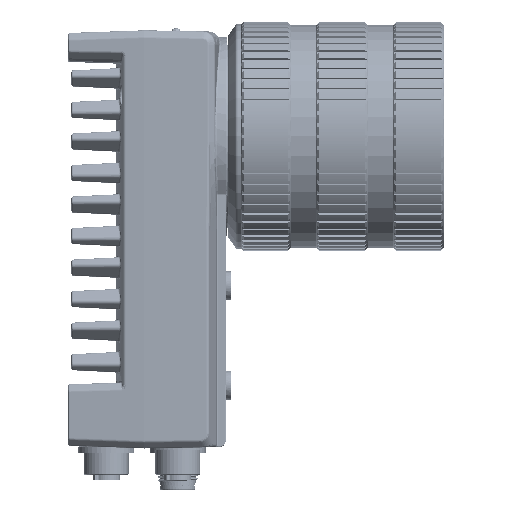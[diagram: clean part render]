
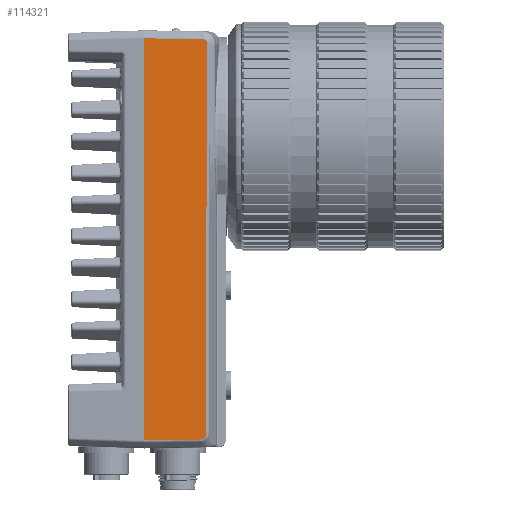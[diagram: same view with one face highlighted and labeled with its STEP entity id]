
A CAD part, left-side view. The second image highlights one B-rep face of the part: STEP entity #114321.
In plain terms, the highlighted planar face has unit normal (-1, -0.026, 0).
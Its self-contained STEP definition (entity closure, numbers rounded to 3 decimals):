
#11467=CARTESIAN_POINT('',(-33.,21.,-91.586));
#11473=DIRECTION('',(0.026,-1.,-0.017));
#11474=VECTOR('',#11473,17.312);
#11475=CARTESIAN_POINT('',(-33.,21.,29.586));
#11476=LINE('',#11475,#11474);
#11477=CARTESIAN_POINT('',(-32.547,3.697,
29.284));
#11478=CARTESIAN_POINT('',(-32.541,3.467,
29.282));
#11479=CARTESIAN_POINT('',(-32.532,3.128,
29.241));
#11480=CARTESIAN_POINT('',(-32.522,2.732,
29.078));
#11481=CARTESIAN_POINT('',(-32.515,2.486,
28.898));
#11482=CARTESIAN_POINT('',(-32.51,2.3,
28.659));
#11483=CARTESIAN_POINT('',(-32.506,2.132,
28.268));
#11484=CARTESIAN_POINT('',(-32.505,2.09,
27.928));
#11485=CARTESIAN_POINT('',(-32.505,2.09,
27.698));
#11487=CARTESIAN_POINT('',(-32.505,2.09,
-1.8));
#11488=CARTESIAN_POINT('',(-32.505,2.091,
-2.66));
#11489=CARTESIAN_POINT('',(-32.505,2.101,
-4.409));
#11490=CARTESIAN_POINT('',(-32.506,2.151,
-7.188));
#11491=CARTESIAN_POINT('',(-32.508,2.208,
-9.925));
#11492=CARTESIAN_POINT('',(-32.509,2.256,
-12.197));
#11493=CARTESIAN_POINT('',(-32.511,2.31,
-15.451));
#11494=CARTESIAN_POINT('',(-32.511,2.345,
-18.131));
#11495=CARTESIAN_POINT('',(-32.512,2.365,
-20.245));
#11496=CARTESIAN_POINT('',(-32.512,2.382,
-22.514));
#11497=CARTESIAN_POINT('',(-32.513,2.396,
-25.208));
#11498=CARTESIAN_POINT('',(-32.513,2.399,
-27.409));
#11499=CARTESIAN_POINT('',(-32.513,2.4,
-28.6));
#11501=DIRECTION('',(-0.026,1.,-0.017));
#11502=VECTOR('',#11501,17.035);
#11503=CARTESIAN_POINT('',(-32.554,3.973,
-91.288));
#11504=LINE('',#11503,#11502);
#11505=DIRECTION('',(0.,0.,1.));
#11506=VECTOR('',#11505,121.171);
#11507=CARTESIAN_POINT('',(-33.,21.,-91.586));
#11508=LINE('',#11507,#11506);
#11602=DIRECTION('',(0.,0.,1.));
#11603=VECTOR('',#11602,29.498);
#11604=CARTESIAN_POINT('',(-32.505,2.09,
-1.8));
#11605=LINE('',#11604,#11603);
#11658=DIRECTION('',(0.,0.,1.));
#11659=VECTOR('',#11658,60.582);
#11660=CARTESIAN_POINT('',(-32.513,2.4,
-89.182));
#11661=LINE('',#11660,#11659);
#16518=CARTESIAN_POINT('',(-32.554,3.973,
-91.288));
#16519=CARTESIAN_POINT('',(-32.551,3.852,
-91.286));
#16520=CARTESIAN_POINT('',(-32.545,3.618,
-91.252));
#16521=CARTESIAN_POINT('',(-32.536,3.292,
-91.118));
#16522=CARTESIAN_POINT('',(-32.529,3.003,
-90.898));
#16523=CARTESIAN_POINT('',(-32.522,2.759,
-90.604));
#16524=CARTESIAN_POINT('',(-32.517,2.562,
-90.211));
#16525=CARTESIAN_POINT('',(-32.514,2.433,
-89.753));
#16526=CARTESIAN_POINT('',(-32.513,2.402,
-89.382));
#16527=CARTESIAN_POINT('',(-32.513,2.4,
-89.182));
#90126=VERTEX_POINT('',#11467);
#90127=CARTESIAN_POINT('',(-33.,21.,29.586));
#90128=CARTESIAN_POINT('',(-32.547,3.697,
29.284));
#90129=VERTEX_POINT('',#90127);
#90130=VERTEX_POINT('',#90128);
#90131=VERTEX_POINT('',#11485);
#90132=CARTESIAN_POINT('',(-32.505,2.09,
-1.8));
#90133=VERTEX_POINT('',#90132);
#90134=VERTEX_POINT('',#16518);
#90135=VERTEX_POINT('',#16527);
#91020=CARTESIAN_POINT('',(-32.513,2.4,
-28.6));
#91021=VERTEX_POINT('',#91020);
#114300=CARTESIAN_POINT('',(-32.752,11.545,
-31.));
#114301=DIRECTION('',(1.,0.026,0.));
#114302=DIRECTION('',(0.026,-1.,0.));
#114303=AXIS2_PLACEMENT_3D('',#114300,#114301,#114302);
#114304=PLANE('',#114303);
#114306=ORIENTED_EDGE('',*,*,#114305,.T.);
#114308=ORIENTED_EDGE('',*,*,#114307,.T.);
#114310=ORIENTED_EDGE('',*,*,#114309,.F.);
#114312=ORIENTED_EDGE('',*,*,#114311,.T.);
#114314=ORIENTED_EDGE('',*,*,#114313,.F.);
#114316=ORIENTED_EDGE('',*,*,#114315,.F.);
#114317=ORIENTED_EDGE('',*,*,#114285,.T.);
#114318=ORIENTED_EDGE('',*,*,#114114,.T.);
#114319=EDGE_LOOP('',(#114306,#114308,#114310,#114312,#114314,#114316,#114317,
#114318));
#114320=FACE_OUTER_BOUND('',#114319,.F.);
#114321=ADVANCED_FACE('',(#114320),#114304,.F.);
#11486=B_SPLINE_CURVE_WITH_KNOTS('',3,(#11477,#11478,#11479,#11480,#11481,
#11482,#11483,#11484,#11485),.UNSPECIFIED.,.F.,.F.,(4,1,1,1,1,1,4),(0.,0.25,
0.375,0.5,0.625,0.75,1.),.UNSPECIFIED.);
#11500=B_SPLINE_CURVE_WITH_KNOTS('',3,(#11487,#11488,#11489,#11490,#11491,
#11492,#11493,#11494,#11495,#11496,#11497,#11498,#11499),.UNSPECIFIED.,.F.,.F.,(
4,1,1,1,1,1,1,1,1,1,4),(0.,0.1,0.2,0.3,0.4,0.5,0.6,0.7,0.8,
0.9,1.),.UNSPECIFIED.);
#16528=B_SPLINE_CURVE_WITH_KNOTS('',3,(#16518,#16519,#16520,#16521,#16522,
#16523,#16524,#16525,#16526,#16527),.UNSPECIFIED.,.F.,.F.,(4,1,1,1,1,1,1,4),(
0.,0.143,0.286,0.429,0.571,
0.714,0.857,1.),.UNSPECIFIED.);
#114114=EDGE_CURVE('',#90126,#90129,#11508,.T.);
#114285=EDGE_CURVE('',#90134,#90126,#11504,.T.);
#114305=EDGE_CURVE('',#90129,#90130,#11476,.T.);
#114307=EDGE_CURVE('',#90130,#90131,#11486,.T.);
#114309=EDGE_CURVE('',#90133,#90131,#11605,.T.);
#114311=EDGE_CURVE('',#90133,#91021,#11500,.T.);
#114313=EDGE_CURVE('',#90135,#91021,#11661,.T.);
#114315=EDGE_CURVE('',#90134,#90135,#16528,.T.);
